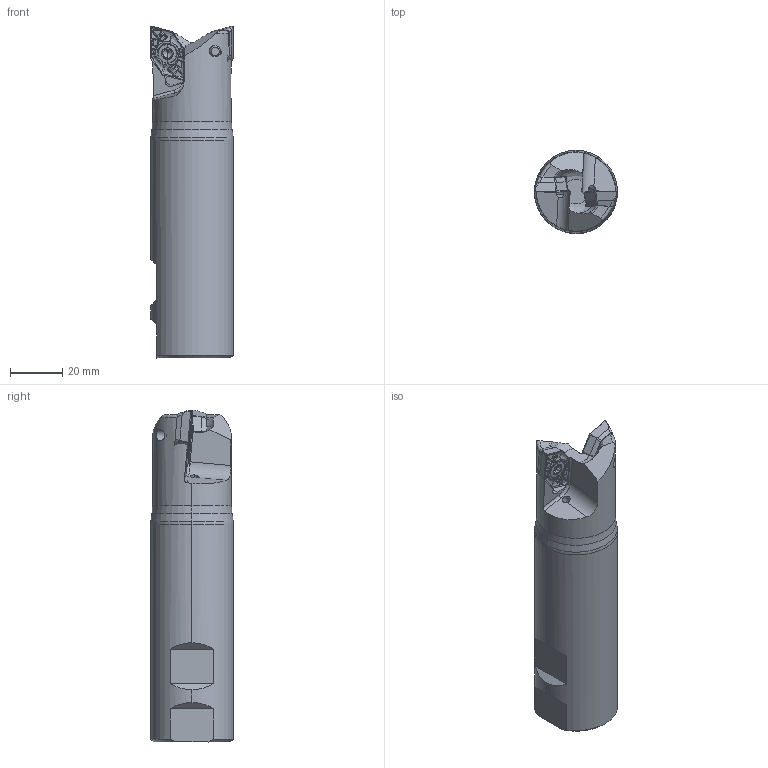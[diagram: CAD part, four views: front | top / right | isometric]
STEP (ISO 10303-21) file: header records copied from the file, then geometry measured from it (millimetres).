
FILE_DESCRIPTION (( 'STEP AP203' ), '1' );
FILE_NAME ('01-0660.STEP', '2023-01-10T16:08:05', ( '' ), ( '' ), 'SwSTEP 2.0', 'SolidWorks 2021', '' );
FILE_SCHEMA (( 'CONFIG_CONTROL_DESIGN' ));
Length unit declared in the file: inch
Products named in the file (6): ge8AC87100ekmz; ge8AC87100ekmz_5; 01-0660; ge8AC87100ekmz_2; ge8AC87100ekmz_3; ge8AC87100ekmz_4
Assembly tree (5 placements, depth 2):
  01-0660
    ge8AC87100ekmz_2
    ge8AC87100ekmz_5
    ge8AC87100ekmz_3
    ge8AC87100ekmz
    ge8AC87100ekmz_4
Bounding box: 31.75 x 31.75 x 127 mm (x, y, z)
Volume: 83098 mm3; surface area: 17479.2 mm2
Topology: 5 solids, 5 shells, 891 faces, 2229 edges, 1295 vertices
Faces by surface type: bspline 540, cylinder 171, plane 119, cone 55, torus 6
Entity records: 43725 total; most frequent: CARTESIAN_POINT 26412, ORIENTED_EDGE 4346, DIRECTION 2314, EDGE_CURVE 2173, VERTEX_POINT 1295, B_SPLINE_CURVE_WITH_KNOTS 1116, AXIS2_PLACEMENT_3D 974, EDGE_LOOP 906
